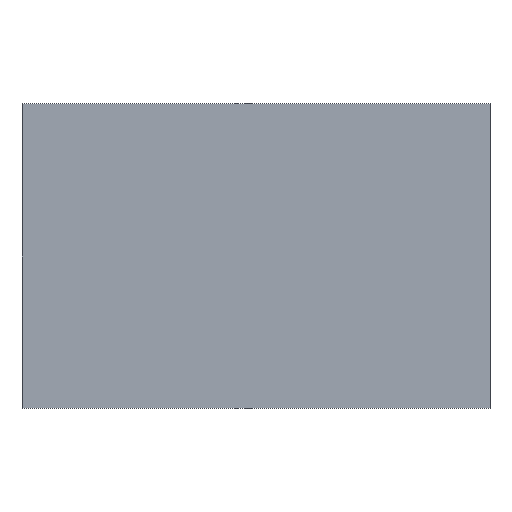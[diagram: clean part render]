
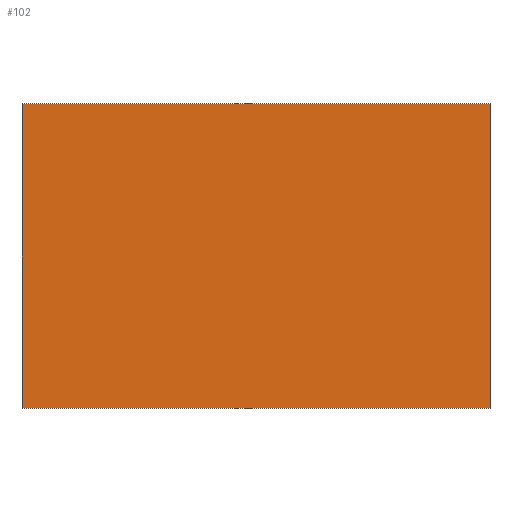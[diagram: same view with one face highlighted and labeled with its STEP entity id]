
A CAD part, top view. The second image highlights one B-rep face of the part: STEP entity #102.
In plain terms, the highlighted planar face has unit normal (0, 0, 1).
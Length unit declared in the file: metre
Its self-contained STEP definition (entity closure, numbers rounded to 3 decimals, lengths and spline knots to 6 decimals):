
#28=ORIENTED_EDGE('',*,*,#38,.F.);
#29=ORIENTED_EDGE('',*,*,#42,.T.);
#30=ORIENTED_EDGE('',*,*,#45,.T.);
#31=ORIENTED_EDGE('',*,*,#47,.F.);
#38=EDGE_CURVE('',#50,#51,#58,.T.);
#42=EDGE_CURVE('',#50,#53,#62,.T.);
#45=EDGE_CURVE('',#53,#55,#65,.T.);
#47=EDGE_CURVE('',#51,#55,#67,.T.);
#50=VERTEX_POINT('',#157);
#51=VERTEX_POINT('',#159);
#53=VERTEX_POINT('',#165);
#55=VERTEX_POINT('',#171);
#58=LINE('',#158,#70);
#62=LINE('',#166,#74);
#65=LINE('',#172,#77);
#67=LINE('',#175,#79);
#70=VECTOR('',#131,1.);
#74=VECTOR('',#137,1.);
#77=VECTOR('',#142,1.);
#79=VECTOR('',#146,1.);
#84=EDGE_LOOP('',(#28,#29,#30,#31));
#90=FACE_BOUND('',#84,.T.);
#96=PLANE('',#123);
#102=ADVANCED_FACE('',(#90),#96,.T.);
#123=AXIS2_PLACEMENT_3D('',#176,#147,#148);
#131=DIRECTION('',(1.,0.,0.));
#137=DIRECTION('',(0.,-1.,0.));
#142=DIRECTION('',(1.,0.,0.));
#146=DIRECTION('',(0.,-1.,0.));
#147=DIRECTION('',(0.,0.,1.));
#148=DIRECTION('',(1.,0.,0.));
#157=CARTESIAN_POINT('',(-0.22225,0.144463,0.000038));
#158=CARTESIAN_POINT('',(0.,0.144463,0.000038));
#159=CARTESIAN_POINT('',(0.22225,0.144463,0.000038));
#165=CARTESIAN_POINT('',(-0.22225,-0.144463,0.000038));
#166=CARTESIAN_POINT('',(-0.22225,0.,0.000038));
#171=CARTESIAN_POINT('',(0.22225,-0.144463,0.000038));
#172=CARTESIAN_POINT('',(0.,-0.144463,0.000038));
#175=CARTESIAN_POINT('',(0.22225,0.,0.000038));
#176=CARTESIAN_POINT('',(0.,0.,0.000038));
